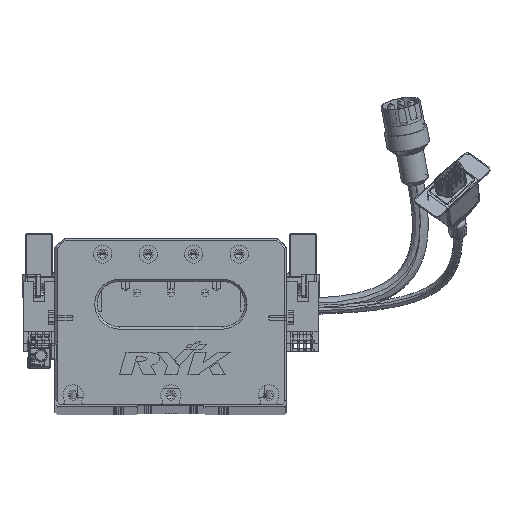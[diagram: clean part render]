
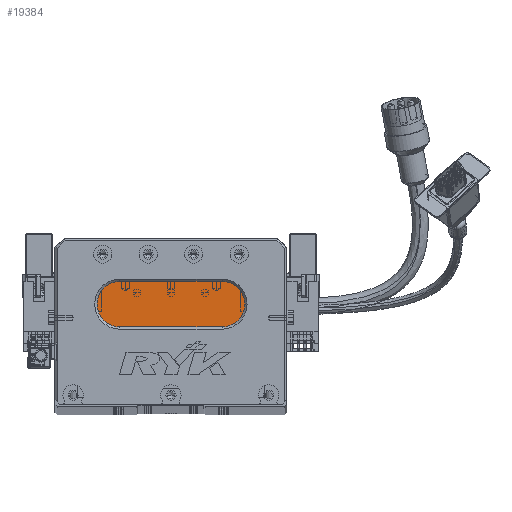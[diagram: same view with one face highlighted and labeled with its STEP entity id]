
A CAD part, top view. The second image highlights one B-rep face of the part: STEP entity #19384.
In plain terms, the highlighted planar face has unit normal (0, 0, 1) as drawn and (0, 0, -1) by its records, which use the part's own axes.
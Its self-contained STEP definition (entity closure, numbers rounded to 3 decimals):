
#2827 = AXIS2_PLACEMENT_3D ( 'NONE', #73434, #60913, #68063 ) ;
#3441 = CARTESIAN_POINT ( 'NONE',  ( 73.5, 34., 13. ) ) ;
#3936 = VERTEX_POINT ( 'NONE', #16897 ) ;
#4301 = EDGE_CURVE ( 'NONE', #5050, #3936, #50195, .T. ) ;
#5050 = VERTEX_POINT ( 'NONE', #46228 ) ;
#7395 = AXIS2_PLACEMENT_3D ( 'NONE', #27503, #51669, #39569 ) ;
#10164 = PLANE ( 'NONE',  #56539 ) ;
#12395 = ORIENTED_EDGE ( 'NONE', *, *, #24845, .T. ) ;
#16602 = DIRECTION ( 'NONE',  ( -1., 0., 0. ) ) ;
#16821 = DIRECTION ( 'NONE',  ( 1., 0., 0. ) ) ;
#16897 = CARTESIAN_POINT ( 'NONE',  ( 73.5, 34., 13. ) ) ;
#19384 = ADVANCED_FACE ( 'NONE', ( #27294 ), #10164, .T. ) ;
#24845 = EDGE_CURVE ( 'NONE', #61924, #28773, #42967, .T. ) ;
#27294 = FACE_OUTER_BOUND ( 'NONE', #56104, .T. ) ;
#27503 = CARTESIAN_POINT ( 'NONE',  ( 28.5, 44., 13. ) ) ;
#28291 = CARTESIAN_POINT ( 'NONE',  ( 18.5, 44., 13. ) ) ;
#28773 = VERTEX_POINT ( 'NONE', #28291 ) ;
#28899 = DIRECTION ( 'NONE',  ( 0., 0., -1. ) ) ;
#31709 = CARTESIAN_POINT ( 'NONE',  ( 28.5, 34., 13. ) ) ;
#34851 = EDGE_CURVE ( 'NONE', #28773, #51429, #38862, .T. ) ;
#36790 = ORIENTED_EDGE ( 'NONE', *, *, #51536, .T. ) ;
#38862 = CIRCLE ( 'NONE', #7395, 10. ) ;
#39332 = VECTOR ( 'NONE', #16821, 1000. ) ;
#39569 = DIRECTION ( 'NONE',  ( -1., 0., 0. ) ) ;
#41234 = ORIENTED_EDGE ( 'NONE', *, *, #55139, .T. ) ;
#42967 = CIRCLE ( 'NONE', #2827, 10. ) ;
#46228 = CARTESIAN_POINT ( 'NONE',  ( 73.5, 54., 13. ) ) ;
#47664 = CARTESIAN_POINT ( 'NONE',  ( 73.5, 54., 13. ) ) ;
#50195 = CIRCLE ( 'NONE', #53169, 10. ) ;
#51429 = VERTEX_POINT ( 'NONE', #64316 ) ;
#51536 = EDGE_CURVE ( 'NONE', #3936, #61924, #70911, .T. ) ;
#51669 = DIRECTION ( 'NONE',  ( 0., 0., -1. ) ) ;
#53085 = CARTESIAN_POINT ( 'NONE',  ( 73.5, 44., 13. ) ) ;
#53169 = AXIS2_PLACEMENT_3D ( 'NONE', #78734, #28899, #59519 ) ;
#55139 = EDGE_CURVE ( 'NONE', #51429, #5050, #58561, .T. ) ;
#56104 = EDGE_LOOP ( 'NONE', ( #76999, #36790, #12395, #60878, #41234 ) ) ;
#56539 = AXIS2_PLACEMENT_3D ( 'NONE', #53085, #71805, #16602 ) ;
#58561 = LINE ( 'NONE', #47664, #39332 ) ;
#59519 = DIRECTION ( 'NONE',  ( -1., 0., 0. ) ) ;
#60878 = ORIENTED_EDGE ( 'NONE', *, *, #34851, .T. ) ;
#60913 = DIRECTION ( 'NONE',  ( 0., 0., -1. ) ) ;
#61924 = VERTEX_POINT ( 'NONE', #31709 ) ;
#64316 = CARTESIAN_POINT ( 'NONE',  ( 28.5, 54., 13. ) ) ;
#65145 = VECTOR ( 'NONE', #77690, 1000. ) ;
#68063 = DIRECTION ( 'NONE',  ( -1., 0., 0. ) ) ;
#70911 = LINE ( 'NONE', #3441, #65145 ) ;
#71805 = DIRECTION ( 'NONE',  ( 0., 0., -1. ) ) ;
#73434 = CARTESIAN_POINT ( 'NONE',  ( 28.5, 44., 13. ) ) ;
#76999 = ORIENTED_EDGE ( 'NONE', *, *, #4301, .T. ) ;
#77690 = DIRECTION ( 'NONE',  ( -1., 0., 0. ) ) ;
#78734 = CARTESIAN_POINT ( 'NONE',  ( 73.5, 44., 13. ) ) ;
